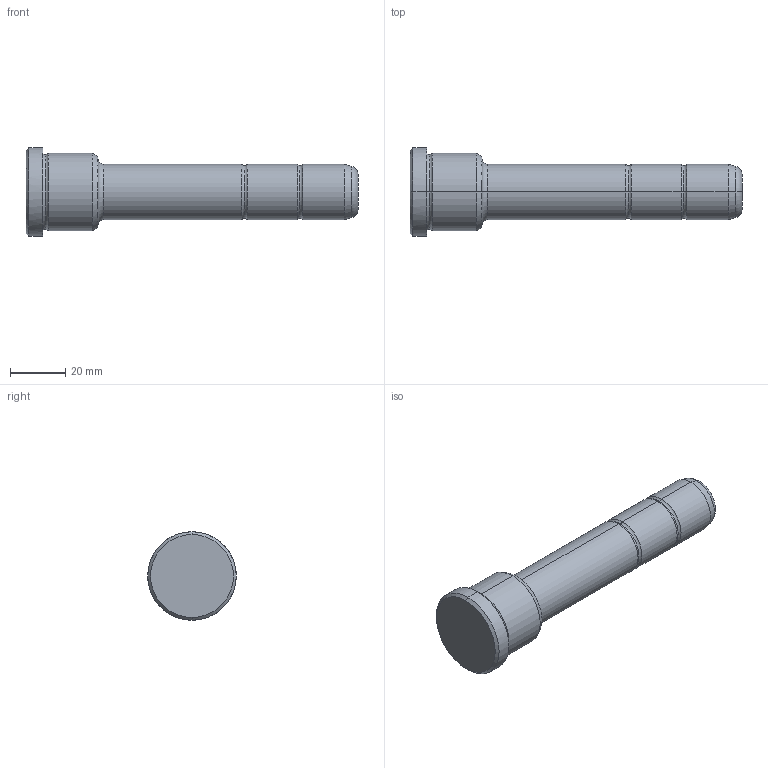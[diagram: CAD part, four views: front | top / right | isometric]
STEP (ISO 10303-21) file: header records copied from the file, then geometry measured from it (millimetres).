
FILE_DESCRIPTION(('CATIA V5 STEP Exchange'),'2;1');
FILE_NAME('C:\Users\Utente\Desktop\IO LAVORO\3D X SITO CF\X SITO\PLASTICA\351\351-20X26X120.stp','2021-08-27T12:30:07+00:00',('none'),('none'),'CATIA Version 5 Release 20 GA (IN-10)','CATIA V5 STEP AP203','none');
FILE_SCHEMA(('CONFIG_CONTROL_DESIGN'));
Length unit declared in the file: millimetre
Products named in the file (1): 351-20X26X120
Bounding box: 120 x 32 x 32 mm (x, y, z)
Volume: 46179.3 mm3; surface area: 9611.3 mm2
Topology: 1 solids, 1 shells, 36 faces, 102 edges, 70 vertices
Faces by surface type: torus 16, cylinder 10, cone 6, plane 4
Entity records: 1292 total; most frequent: CARTESIAN_POINT 321, ORIENTED_EDGE 204, DIRECTION 166, AXIS2_PLACEMENT_3D 115, EDGE_CURVE 102, CIRCLE 78, VERTEX_POINT 70, EDGE_LOOP 38
